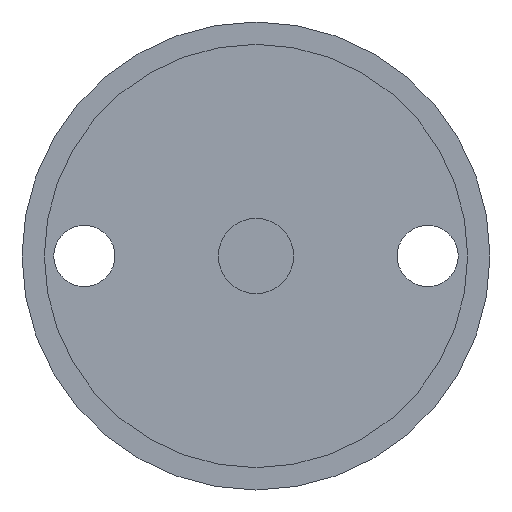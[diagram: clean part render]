
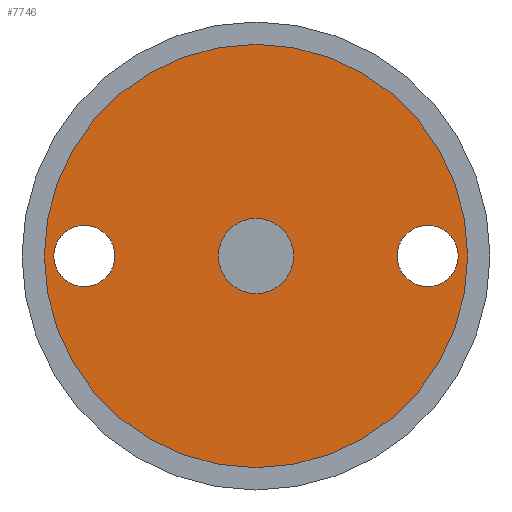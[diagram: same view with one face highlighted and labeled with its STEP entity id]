
A CAD part, front view. The second image highlights one B-rep face of the part: STEP entity #7746.
In plain terms, the highlighted planar face has unit normal (0, -1, 0).
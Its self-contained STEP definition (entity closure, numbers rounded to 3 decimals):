
#186 = CIRCLE ( 'NONE', #10992, 6.5 ) ;
#305 = EDGE_CURVE ( 'NONE', #1295, #7488, #13367, .T. ) ;
#330 = ORIENTED_EDGE ( 'NONE', *, *, #305, .T. ) ;
#342 = DIRECTION ( 'NONE',  ( -1., 0., 0. ) ) ;
#390 = ORIENTED_EDGE ( 'NONE', *, *, #8149, .T. ) ;
#688 = DIRECTION ( 'NONE',  ( 0., 1., 0. ) ) ;
#1155 = DIRECTION ( 'NONE',  ( 0., 1., 0. ) ) ;
#1218 = DIRECTION ( 'NONE',  ( 0., 1., 0. ) ) ;
#1231 = CIRCLE ( 'NONE', #7799, 6.5 ) ;
#1295 = VERTEX_POINT ( 'NONE', #9545 ) ;
#1360 = CARTESIAN_POINT ( 'NONE',  ( -16.5, -23.7, 0. ) ) ;
#1415 = FACE_BOUND ( 'NONE', #11126, .T. ) ;
#1617 = DIRECTION ( 'NONE',  ( 0., 1., 0. ) ) ;
#2126 = AXIS2_PLACEMENT_3D ( 'NONE', #9342, #3037, #10401 ) ;
#2434 = DIRECTION ( 'NONE',  ( -1., 0., 0. ) ) ;
#2556 = CARTESIAN_POINT ( 'NONE',  ( -8., -23.7, 0. ) ) ;
#3037 = DIRECTION ( 'NONE',  ( 0., -1., 0. ) ) ;
#3277 = EDGE_LOOP ( 'NONE', ( #5901, #8239 ) ) ;
#3558 = CARTESIAN_POINT ( 'NONE',  ( -45., -23.7, 0. ) ) ;
#4155 = CIRCLE ( 'NONE', #5286, 6.5 ) ;
#4233 = FACE_BOUND ( 'NONE', #3277, .T. ) ;
#4273 = VERTEX_POINT ( 'NONE', #4789 ) ;
#4376 = EDGE_CURVE ( 'NONE', #9382, #10888, #1231, .T. ) ;
#4789 = CARTESIAN_POINT ( 'NONE',  ( 45., -23.7, 0. ) ) ;
#4829 = VERTEX_POINT ( 'NONE', #2556 ) ;
#4902 = CARTESIAN_POINT ( 'NONE',  ( 0., -23.7, 0. ) ) ;
#4951 = CARTESIAN_POINT ( 'NONE',  ( -36.5, -23.7, -6.5 ) ) ;
#5286 = AXIS2_PLACEMENT_3D ( 'NONE', #7941, #1617, #8998 ) ;
#5529 = EDGE_LOOP ( 'NONE', ( #330, #10077 ) ) ;
#5669 = EDGE_LOOP ( 'NONE', ( #390, #7105 ) ) ;
#5794 = VERTEX_POINT ( 'NONE', #3558 ) ;
#5836 = CARTESIAN_POINT ( 'NONE',  ( 0., -23.7, 0. ) ) ;
#5901 = ORIENTED_EDGE ( 'NONE', *, *, #4376, .T. ) ;
#5916 = ORIENTED_EDGE ( 'NONE', *, *, #12877, .F. ) ;
#5953 = DIRECTION ( 'NONE',  ( -1., 0., 0. ) ) ;
#6123 = CIRCLE ( 'NONE', #2126, 8. ) ;
#6251 = EDGE_CURVE ( 'NONE', #10888, #9382, #186, .T. ) ;
#6381 = FACE_OUTER_BOUND ( 'NONE', #5669, .T. ) ;
#6433 = DIRECTION ( 'NONE',  ( -1., 0., 0. ) ) ;
#6658 = DIRECTION ( 'NONE',  ( 0., -1., 0. ) ) ;
#6858 = DIRECTION ( 'NONE',  ( -1., 0., 0. ) ) ;
#7007 = CARTESIAN_POINT ( 'NONE',  ( -36.5, -23.7, 0. ) ) ;
#7105 = ORIENTED_EDGE ( 'NONE', *, *, #8006, .T. ) ;
#7472 = CARTESIAN_POINT ( 'NONE',  ( 36.5, -23.7, 0. ) ) ;
#7488 = VERTEX_POINT ( 'NONE', #8359 ) ;
#7531 = CARTESIAN_POINT ( 'NONE',  ( -36.5, -23.7, 0. ) ) ;
#7746 = ADVANCED_FACE ( 'NONE', ( #4233, #9158, #1415, #6381 ), #9750, .T. ) ;
#7799 = AXIS2_PLACEMENT_3D ( 'NONE', #7007, #688, #8074 ) ;
#7941 = CARTESIAN_POINT ( 'NONE',  ( 36.5, -23.7, 0. ) ) ;
#8006 = EDGE_CURVE ( 'NONE', #4273, #5794, #13603, .T. ) ;
#8074 = DIRECTION ( 'NONE',  ( -1., 0., 0. ) ) ;
#8149 = EDGE_CURVE ( 'NONE', #5794, #4273, #8978, .T. ) ;
#8239 = ORIENTED_EDGE ( 'NONE', *, *, #6251, .T. ) ;
#8245 = CARTESIAN_POINT ( 'NONE',  ( 8., -23.7, 0. ) ) ;
#8359 = CARTESIAN_POINT ( 'NONE',  ( 36.5, -23.7, 6.5 ) ) ;
#8595 = DIRECTION ( 'NONE',  ( -1., 0., 0. ) ) ;
#8741 = DIRECTION ( 'NONE',  ( 0., -1., 0. ) ) ;
#8978 = CIRCLE ( 'NONE', #10171, 45. ) ;
#8998 = DIRECTION ( 'NONE',  ( -1., 0., 0. ) ) ;
#9017 = AXIS2_PLACEMENT_3D ( 'NONE', #7472, #1155, #6433 ) ;
#9040 = AXIS2_PLACEMENT_3D ( 'NONE', #12962, #6658, #342 ) ;
#9158 = FACE_BOUND ( 'NONE', #5529, .T. ) ;
#9342 = CARTESIAN_POINT ( 'NONE',  ( 0., -23.7, 0. ) ) ;
#9382 = VERTEX_POINT ( 'NONE', #4951 ) ;
#9545 = CARTESIAN_POINT ( 'NONE',  ( 36.5, -23.7, -6.5 ) ) ;
#9750 = PLANE ( 'NONE',  #12157 ) ;
#10077 = ORIENTED_EDGE ( 'NONE', *, *, #10723, .T. ) ;
#10171 = AXIS2_PLACEMENT_3D ( 'NONE', #4902, #12257, #5953 ) ;
#10401 = DIRECTION ( 'NONE',  ( -1., 0., 0. ) ) ;
#10722 = AXIS2_PLACEMENT_3D ( 'NONE', #5836, #13172, #6858 ) ;
#10723 = EDGE_CURVE ( 'NONE', #7488, #1295, #4155, .T. ) ;
#10888 = VERTEX_POINT ( 'NONE', #12537 ) ;
#10920 = VERTEX_POINT ( 'NONE', #8245 ) ;
#10992 = AXIS2_PLACEMENT_3D ( 'NONE', #7531, #1218, #8595 ) ;
#11126 = EDGE_LOOP ( 'NONE', ( #5916, #11526 ) ) ;
#11526 = ORIENTED_EDGE ( 'NONE', *, *, #13242, .F. ) ;
#12042 = CIRCLE ( 'NONE', #10722, 8. ) ;
#12157 = AXIS2_PLACEMENT_3D ( 'NONE', #1360, #8741, #2434 ) ;
#12257 = DIRECTION ( 'NONE',  ( 0., -1., 0. ) ) ;
#12537 = CARTESIAN_POINT ( 'NONE',  ( -36.5, -23.7, 6.5 ) ) ;
#12877 = EDGE_CURVE ( 'NONE', #4829, #10920, #6123, .T. ) ;
#12962 = CARTESIAN_POINT ( 'NONE',  ( 0., -23.7, 0. ) ) ;
#13172 = DIRECTION ( 'NONE',  ( 0., -1., 0. ) ) ;
#13242 = EDGE_CURVE ( 'NONE', #10920, #4829, #12042, .T. ) ;
#13367 = CIRCLE ( 'NONE', #9017, 6.5 ) ;
#13603 = CIRCLE ( 'NONE', #9040, 45. ) ;
